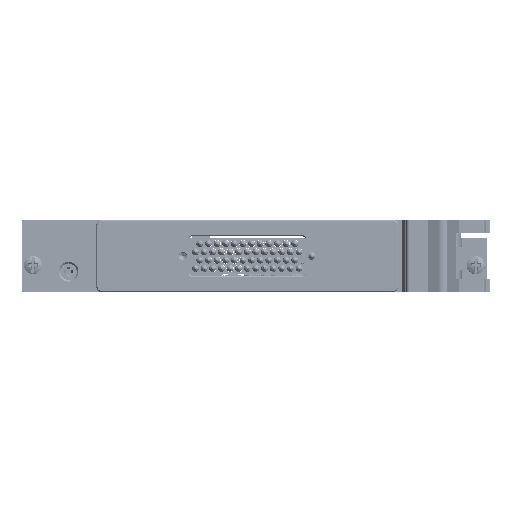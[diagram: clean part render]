
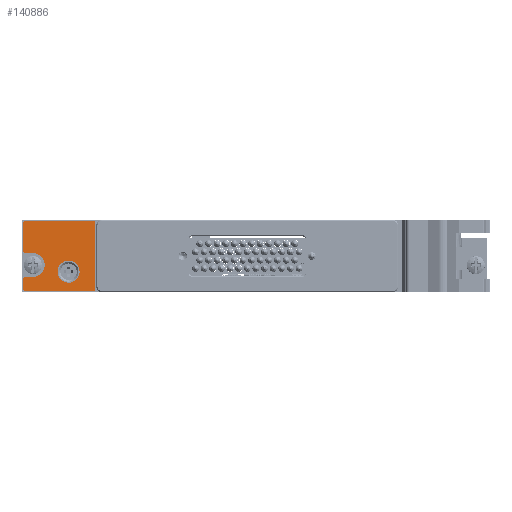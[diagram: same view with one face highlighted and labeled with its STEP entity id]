
A CAD part, left-side view. The second image highlights one B-rep face of the part: STEP entity #140886.
In plain terms, the highlighted planar face has unit normal (-1, 0, 0) as drawn and (0, 0, 1) by its records, which use the part's own axes.
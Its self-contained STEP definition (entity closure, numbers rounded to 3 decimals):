
#268 = EDGE_CURVE ( 'NONE', #426325, #69958, #102057, .T. ) ;
#1235 = CARTESIAN_POINT ( 'NONE',  ( 91.175, -76.944, 0.2 ) ) ;
#6031 = CARTESIAN_POINT ( 'NONE',  ( 90.875, -74.344, 0.2 ) ) ;
#6762 = EDGE_CURVE ( 'NONE', #7224, #250635, #247461, .T. ) ;
#7224 = VERTEX_POINT ( 'NONE', #300854 ) ;
#8835 = CARTESIAN_POINT ( 'NONE',  ( 87.575, -93.944, 0.2 ) ) ;
#11279 = DIRECTION ( 'NONE',  ( 1., 0., 0. ) ) ;
#15723 = CIRCLE ( 'NONE', #306558, 3.05 ) ;
#17988 = DIRECTION ( 'NONE',  ( 1., 0., 0. ) ) ;
#18314 = DIRECTION ( 'NONE',  ( 1., 0., 0. ) ) ;
#29935 = VECTOR ( 'NONE', #226775, 1000. ) ;
#31063 = CIRCLE ( 'NONE', #235510, 0.3 ) ;
#31546 = CARTESIAN_POINT ( 'NONE',  ( 92.635, -86.844, 0.2 ) ) ;
#36553 = ORIENTED_EDGE ( 'NONE', *, *, #133874, .T. ) ;
#46785 = CARTESIAN_POINT ( 'NONE',  ( 91.175, -76.944, 0.2 ) ) ;
#48605 = VERTEX_POINT ( 'NONE', #409281 ) ;
#51501 = CARTESIAN_POINT ( 'NONE',  ( 87.575, -74.644, 0.2 ) ) ;
#54899 = ORIENTED_EDGE ( 'NONE', *, *, #437576, .T. ) ;
#58822 = DIRECTION ( 'NONE',  ( -1., 0., 0. ) ) ;
#63467 = DIRECTION ( 'NONE',  ( 1., 0., 0. ) ) ;
#64480 = CARTESIAN_POINT ( 'NONE',  ( 87.275, -93.944, 0.2 ) ) ;
#68339 = VECTOR ( 'NONE', #73461, 1000. ) ;
#69958 = VERTEX_POINT ( 'NONE', #64480 ) ;
#73461 = DIRECTION ( 'NONE',  ( 1., 0., 0. ) ) ;
#87572 = CARTESIAN_POINT ( 'NONE',  ( 98.075, -74.644, 0.2 ) ) ;
#89513 = VERTEX_POINT ( 'NONE', #427986 ) ;
#91865 = CARTESIAN_POINT ( 'NONE',  ( 90.875, -74.644, 0.2 ) ) ;
#93950 = DIRECTION ( 'NONE',  ( 0., -1., 0. ) ) ;
#95553 = DIRECTION ( 'NONE',  ( 1., 0., 0. ) ) ;
#101320 = DIRECTION ( 'NONE',  ( 0., 1., 0. ) ) ;
#102057 = LINE ( 'NONE', #252133, #162636 ) ;
#112757 = EDGE_CURVE ( 'NONE', #89513, #311474, #15723, .T. ) ;
#122484 = ORIENTED_EDGE ( 'NONE', *, *, #190041, .F. ) ;
#129985 = CARTESIAN_POINT ( 'NONE',  ( 89.585, -86.844, 0.2 ) ) ;
#130572 = EDGE_CURVE ( 'NONE', #250635, #253906, #288323, .T. ) ;
#131199 = CARTESIAN_POINT ( 'NONE',  ( 106.675, -93.944, 0.2 ) ) ;
#133228 = CARTESIAN_POINT ( 'NONE',  ( 94.475, -76.944, 0.2 ) ) ;
#133874 = EDGE_CURVE ( 'NONE', #153312, #426325, #467781, .T. ) ;
#137338 = DIRECTION ( 'NONE',  ( 0., 0., 1. ) ) ;
#138786 = DIRECTION ( 'NONE',  ( 0., 0., 1. ) ) ;
#140886 = ADVANCED_FACE ( 'Face4', ( #282562, #174219 ), #208731, .T. ) ;
#146293 = CIRCLE ( 'NONE', #193362, 3.3 ) ;
#153312 = VERTEX_POINT ( 'NONE', #321310 ) ;
#157707 = ORIENTED_EDGE ( 'NONE', *, *, #252171, .T. ) ;
#161046 = LINE ( 'NONE', #6031, #292637 ) ;
#162636 = VECTOR ( 'NONE', #402359, 1000. ) ;
#171039 = AXIS2_PLACEMENT_3D ( 'NONE', #319521, #137338, #95553 ) ;
#172076 = DIRECTION ( 'NONE',  ( 0., 0., 1. ) ) ;
#172599 = CARTESIAN_POINT ( 'NONE',  ( 97.775, -76.944, 0.2 ) ) ;
#174207 = DIRECTION ( 'NONE',  ( 0., 0., 1. ) ) ;
#174219 = FACE_BOUND ( 'NONE', #282506, .T. ) ;
#174564 = CARTESIAN_POINT ( 'NONE',  ( 90.875, -74.344, 0.2 ) ) ;
#182367 = VECTOR ( 'NONE', #101320, 1000. ) ;
#183935 = DIRECTION ( 'NONE',  ( 1., 0., 0. ) ) ;
#186578 = EDGE_CURVE ( 'NONE', #367574, #263387, #468325, .T. ) ;
#187309 = CARTESIAN_POINT ( 'NONE',  ( 106.675, -74.644, 0.2 ) ) ;
#188573 = EDGE_CURVE ( 'NONE', #266417, #153312, #161046, .T. ) ;
#190041 = EDGE_CURVE ( 'NONE', #311474, #89513, #475286, .T. ) ;
#193362 = AXIS2_PLACEMENT_3D ( 'NONE', #133228, #475547, #364500 ) ;
#197905 = DIRECTION ( 'NONE',  ( -1., 0., 0. ) ) ;
#198824 = EDGE_LOOP ( 'NONE', ( #341504, #352416, #419013, #204705, #36553, #467043, #54899, #157707, #342431, #376585, #213202, #227217, #214101, #267025 ) ) ;
#200082 = AXIS2_PLACEMENT_3D ( 'NONE', #51501, #472506, #58822 ) ;
#204705 = ORIENTED_EDGE ( 'NONE', *, *, #188573, .T. ) ;
#208731 = PLANE ( 'NONE',  #171039 ) ;
#210903 = DIRECTION ( 'NONE',  ( 0., 1., 0. ) ) ;
#213202 = ORIENTED_EDGE ( 'NONE', *, *, #417044, .T. ) ;
#213288 = VECTOR ( 'NONE', #93950, 1000. ) ;
#214101 = ORIENTED_EDGE ( 'NONE', *, *, #450534, .T. ) ;
#218648 = DIRECTION ( 'NONE',  ( 1., 0., 0. ) ) ;
#225123 = CARTESIAN_POINT ( 'NONE',  ( 91.175, -74.644, 0.2 ) ) ;
#226775 = DIRECTION ( 'NONE',  ( -1., 0., 0. ) ) ;
#227217 = ORIENTED_EDGE ( 'NONE', *, *, #333123, .T. ) ;
#232314 = CARTESIAN_POINT ( 'NONE',  ( 87.575, -94.244, 0.2 ) ) ;
#232671 = DIRECTION ( 'NONE',  ( 0., 0., 1. ) ) ;
#235510 = AXIS2_PLACEMENT_3D ( 'NONE', #321014, #138786, #18314 ) ;
#238655 = VERTEX_POINT ( 'NONE', #232314 ) ;
#241020 = VERTEX_POINT ( 'NONE', #311997 ) ;
#244114 = AXIS2_PLACEMENT_3D ( 'NONE', #8835, #232671, #412620 ) ;
#247461 = CIRCLE ( 'NONE', #310425, 0.3 ) ;
#250470 = CARTESIAN_POINT ( 'NONE',  ( 92.635, -86.844, 0.2 ) ) ;
#250635 = VERTEX_POINT ( 'NONE', #131199 ) ;
#252133 = CARTESIAN_POINT ( 'NONE',  ( 87.275, -74.644, 0.2 ) ) ;
#252171 = EDGE_CURVE ( 'NONE', #238655, #7224, #487096, .T. ) ;
#253906 = VERTEX_POINT ( 'NONE', #187309 ) ;
#254523 = EDGE_CURVE ( 'NONE', #302286, #266417, #283483, .T. ) ;
#263387 = VERTEX_POINT ( 'NONE', #338511 ) ;
#265172 = CARTESIAN_POINT ( 'NONE',  ( 87.575, -94.244, 0.2 ) ) ;
#266417 = VERTEX_POINT ( 'NONE', #174564 ) ;
#267025 = ORIENTED_EDGE ( 'NONE', *, *, #186578, .T. ) ;
#282506 = EDGE_LOOP ( 'NONE', ( #122484, #378881 ) ) ;
#282562 = FACE_OUTER_BOUND ( 'NONE', #198824, .T. ) ;
#283483 = CIRCLE ( 'NONE', #401614, 0.3 ) ;
#288323 = LINE ( 'NONE', #473270, #182367 ) ;
#292637 = VECTOR ( 'NONE', #197905, 1000. ) ;
#300854 = CARTESIAN_POINT ( 'NONE',  ( 106.375, -94.244, 0.2 ) ) ;
#302286 = VERTEX_POINT ( 'NONE', #225123 ) ;
#305493 = LINE ( 'NONE', #337683, #29935 ) ;
#306558 = AXIS2_PLACEMENT_3D ( 'NONE', #250470, #174207, #63467 ) ;
#310425 = AXIS2_PLACEMENT_3D ( 'NONE', #371085, #375925, #183935 ) ;
#311474 = VERTEX_POINT ( 'NONE', #129985 ) ;
#311997 = CARTESIAN_POINT ( 'NONE',  ( 106.375, -74.344, 0.2 ) ) ;
#319521 = CARTESIAN_POINT ( 'NONE',  ( 94.475, -76.944, 0.2 ) ) ;
#321014 = CARTESIAN_POINT ( 'NONE',  ( 106.375, -74.644, 0.2 ) ) ;
#321310 = CARTESIAN_POINT ( 'NONE',  ( 87.575, -74.344, 0.2 ) ) ;
#323658 = VERTEX_POINT ( 'NONE', #1235 ) ;
#333123 = EDGE_CURVE ( 'NONE', #241020, #48605, #305493, .T. ) ;
#333462 = CARTESIAN_POINT ( 'NONE',  ( 97.775, -74.644, 0.2 ) ) ;
#337683 = CARTESIAN_POINT ( 'NONE',  ( 106.375, -74.344, 0.2 ) ) ;
#338177 = EDGE_CURVE ( 'NONE', #263387, #323658, #146293, .T. ) ;
#338511 = CARTESIAN_POINT ( 'NONE',  ( 97.775, -76.944, 0.2 ) ) ;
#341486 = AXIS2_PLACEMENT_3D ( 'NONE', #31546, #172076, #218648 ) ;
#341504 = ORIENTED_EDGE ( 'NONE', *, *, #338177, .T. ) ;
#342431 = ORIENTED_EDGE ( 'NONE', *, *, #6762, .T. ) ;
#348439 = DIRECTION ( 'NONE',  ( 0., 0., 1. ) ) ;
#348862 = EDGE_CURVE ( 'NONE', #323658, #302286, #395646, .T. ) ;
#352416 = ORIENTED_EDGE ( 'NONE', *, *, #348862, .T. ) ;
#355172 = DIRECTION ( 'NONE',  ( 0., 0., 1. ) ) ;
#357630 = CARTESIAN_POINT ( 'NONE',  ( 87.275, -74.644, 0.2 ) ) ;
#364500 = DIRECTION ( 'NONE',  ( 1., 0., 0. ) ) ;
#367574 = VERTEX_POINT ( 'NONE', #333462 ) ;
#371085 = CARTESIAN_POINT ( 'NONE',  ( 106.375, -93.944, 0.2 ) ) ;
#371900 = AXIS2_PLACEMENT_3D ( 'NONE', #87572, #348439, #11279 ) ;
#375925 = DIRECTION ( 'NONE',  ( 0., 0., 1. ) ) ;
#376585 = ORIENTED_EDGE ( 'NONE', *, *, #130572, .T. ) ;
#378881 = ORIENTED_EDGE ( 'NONE', *, *, #112757, .F. ) ;
#395646 = LINE ( 'NONE', #46785, #455131 ) ;
#401614 = AXIS2_PLACEMENT_3D ( 'NONE', #91865, #355172, #17988 ) ;
#402359 = DIRECTION ( 'NONE',  ( 0., -1., 0. ) ) ;
#409281 = CARTESIAN_POINT ( 'NONE',  ( 98.075, -74.344, 0.2 ) ) ;
#412620 = DIRECTION ( 'NONE',  ( 1., 0., 0. ) ) ;
#417044 = EDGE_CURVE ( 'NONE', #253906, #241020, #31063, .T. ) ;
#419013 = ORIENTED_EDGE ( 'NONE', *, *, #254523, .T. ) ;
#426325 = VERTEX_POINT ( 'NONE', #357630 ) ;
#427986 = CARTESIAN_POINT ( 'NONE',  ( 95.685, -86.844, 0.2 ) ) ;
#437576 = EDGE_CURVE ( 'NONE', #69958, #238655, #472501, .T. ) ;
#450534 = EDGE_CURVE ( 'NONE', #48605, #367574, #458607, .T. ) ;
#455131 = VECTOR ( 'NONE', #210903, 1000. ) ;
#458607 = CIRCLE ( 'NONE', #371900, 0.3 ) ;
#467043 = ORIENTED_EDGE ( 'NONE', *, *, #268, .T. ) ;
#467781 = CIRCLE ( 'NONE', #200082, 0.3 ) ;
#468325 = LINE ( 'NONE', #172599, #213288 ) ;
#472501 = CIRCLE ( 'NONE', #244114, 0.3 ) ;
#472506 = DIRECTION ( 'NONE',  ( 0., 0., 1. ) ) ;
#473270 = CARTESIAN_POINT ( 'NONE',  ( 106.675, -93.944, 0.2 ) ) ;
#475286 = CIRCLE ( 'NONE', #341486, 3.05 ) ;
#475547 = DIRECTION ( 'NONE',  ( 0., 0., -1. ) ) ;
#487096 = LINE ( 'NONE', #265172, #68339 ) ;
